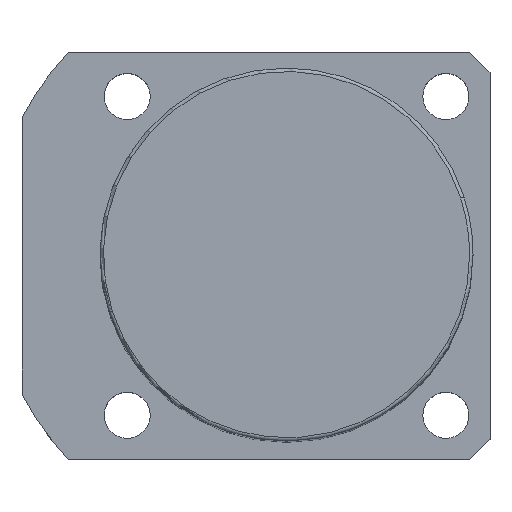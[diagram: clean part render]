
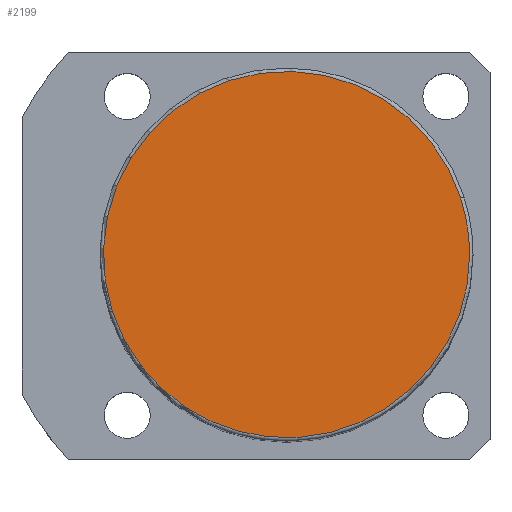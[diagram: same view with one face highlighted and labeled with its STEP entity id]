
A CAD part, top view. The second image highlights one B-rep face of the part: STEP entity #2199.
In plain terms, the highlighted planar face has unit normal (0, 0, 1).
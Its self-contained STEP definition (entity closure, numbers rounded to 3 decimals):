
#2165=CARTESIAN_POINT('',(27.0,0.0,121.0));
#2166=VERTEX_POINT('',#2165);
#2167=CARTESIAN_POINT('',(25.679,8.343,121.0));
#2168=VERTEX_POINT('',#2167);
#2169=CARTESIAN_POINT('',(0.0,0.0,121.0));
#2170=DIRECTION('',(0.0,0.0,1.0));
#2171=DIRECTION('',(1.0,0.0,0.0));
#2172=AXIS2_PLACEMENT_3D('',#2169,#2170,#2171);
#2173=CIRCLE('',#2172,27.0);
#2174=EDGE_CURVE('no 2175',#2166,#2168,#2173,.T.);
#2175=ORIENTED_EDGE('',*,*,#2174,.T.);
#2176=CARTESIAN_POINT('',(-25.679,-8.343,121.0));
#2177=VERTEX_POINT('',#2176);
#2178=CARTESIAN_POINT('',(0.0,0.0,121.0));
#2179=DIRECTION('',(0.0,0.0,1.0));
#2180=DIRECTION('',(1.0,0.0,0.0));
#2181=AXIS2_PLACEMENT_3D('',#2178,#2179,#2180);
#2182=CIRCLE('',#2181,27.0);
#2183=EDGE_CURVE('no 2181',#2168,#2177,#2182,.T.);
#2184=ORIENTED_EDGE('',*,*,#2183,.T.);
#2185=CARTESIAN_POINT('',(0.0,0.0,121.0));
#2186=DIRECTION('',(0.0,0.0,1.0));
#2187=DIRECTION('',(1.0,0.0,0.0));
#2188=AXIS2_PLACEMENT_3D('',#2185,#2186,#2187);
#2189=CIRCLE('',#2188,27.0);
#2190=EDGE_CURVE('no 2185',#2177,#2166,#2189,.T.);
#2191=ORIENTED_EDGE('',*,*,#2190,.T.);
#2192=EDGE_LOOP('',(#2175,#2184,#2191));
#2193=FACE_OUTER_BOUND('',#2192,.T.);
#2194=CARTESIAN_POINT('',(0.0,0.0,121.0));
#2195=DIRECTION('',(0.0,0.0,1.0));
#2196=DIRECTION('',(1.0,0.0,0.0));
#2197=AXIS2_PLACEMENT_3D('',#2194,#2195,#2196);
#2198=PLANE('',#2197);
#2199=ADVANCED_FACE('no 2166',(#2193),#2198,.T.);
